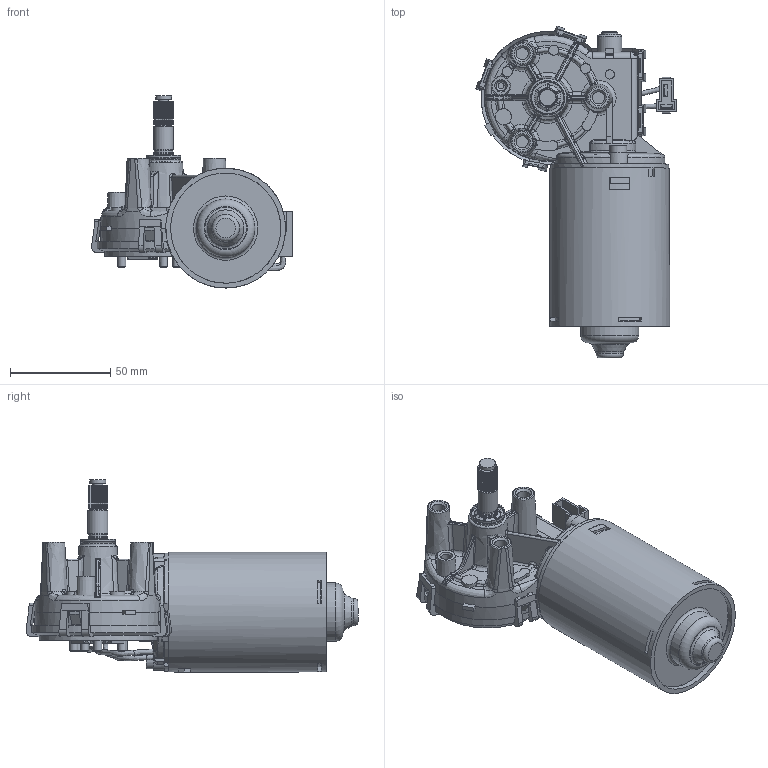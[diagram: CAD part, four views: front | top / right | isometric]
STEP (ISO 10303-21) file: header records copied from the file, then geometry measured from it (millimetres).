
FILE_DESCRIPTION(/* description */ (''),/* implementation_level */ '2;1');
FILE_NAME(/* name */ 'F006B200092.stp',/* time_stamp */ '2013-02-07T19:07:46+06:00',/* author */ (''),/* organization */ (''),/* preprocessor_version */ 'ST-DEVELOPER v11',/* originating_system */ 'SIEMENS PLM Software NX 7.5',/* authorisation */ '');
FILE_SCHEMA (('CONFIG_CONTROL_DESIGN'));
Products named in the file (1): F006B20092_stp
Bounding box: 100.2 x 165.71 x 95.92 mm (x, y, z)
Volume: 352103.6 mm3; surface area: 58234.1 mm2
Topology: 1 solids, 10 shells, 1413 faces, 3918 edges, 2487 vertices
Faces by surface type: plane 639, bspline 310, cylinder 301, cone 86, torus 64, extrusion 11, revolution 2
Full cylindrical faces by diameter (mm): 4 x7, 4.58 x1, 5 x4, 5.4 x2, 5.7 x2, 6 x3, 7 x1, 8 x2, 8.5 x2, 9.141 x2, 10 x3, 11.411 x1, 12 x1, 13 x1, 16.5 x1, 17.1 x2, 29.1 x1, 55 x1, 59.8 x1
Entity records: 64203 total; most frequent: CARTESIAN_POINT 32088, ORIENTED_EDGE 7464, DIRECTION 5242, EDGE_CURVE 3732, VERTEX_POINT 2442, AXIS2_PLACEMENT_3D 1806, VECTOR 1628, LINE 1617
